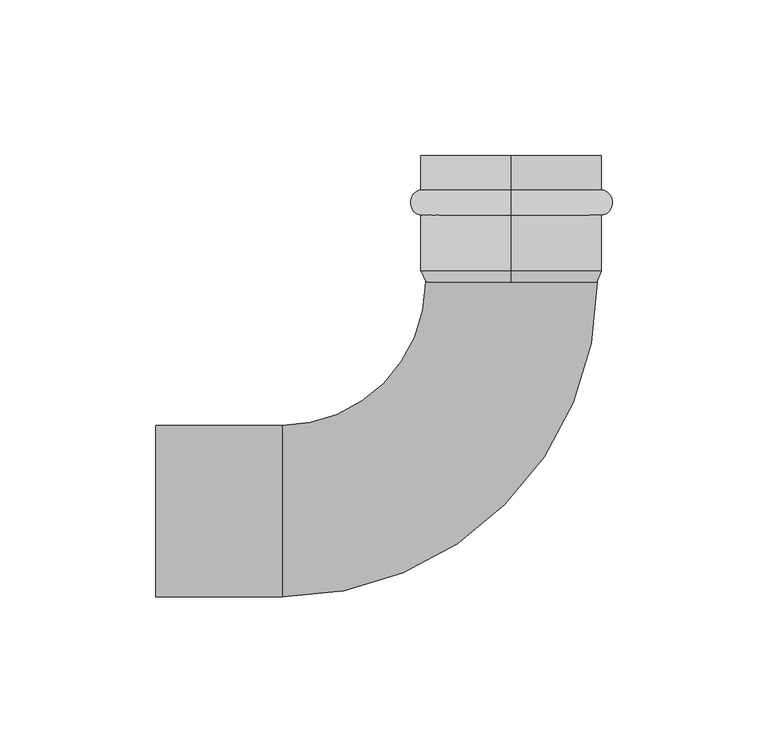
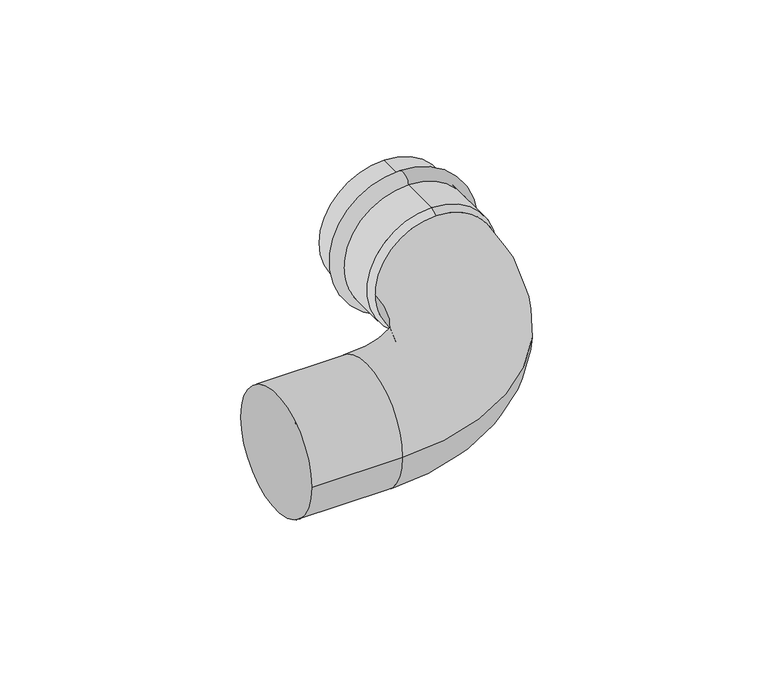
"""IFC4 building model written with IfcOpenShell, lengths in millimetres: pipe fitting geometry, РЕХАУ_Пресс Отвод-вставка : 54 x 90°."""

from ifc_helpers import new_model, si_unit, point, frame, origin, place, context, project, spatial, polyline, circle_curve, ellipse_curve, trimmed, source, transform, mapped, element, save
from ifc_brep_helpers import plane_surface, cylinder_surface, revolved_surface, advanced_brep


def pipe_fitting_194db4ae(model_context):
    return source(origin(), model_context, "Body", "AdvancedBrep", [
        advanced_brep(
        [(114.0, 103.0, 29.0), (114.0, 103.0, -29.0), (114.0, 95.0, -29.0), (114.0, 95.0, 29.0)],
        [
            (0, 1, circle_curve(frame((114.0, 103.0, 0.0), z_axis=(0.0, 1.0, 0.0), x_axis=(0.0, 0.0, -1.0)), 29.0)),
            (1, 2),
            (2, 3, circle_curve(frame((114.0, 95.0, 0.0), z_axis=(0.0, -1.0, 0.0), x_axis=(0.0, 0.0, -1.0)), 29.0)),
            (3, 0),
            (1, 0, circle_curve(frame((114.0, 103.0, 0.0), z_axis=(0.0, 1.0, 0.0), x_axis=(0.0, 0.0, -1.0)), 29.0)),
            (3, 2, circle_curve(frame((114.0, 95.0, 0.0), z_axis=(0.0, -1.0, 0.0), x_axis=(0.0, 0.0, -1.0)), 29.0)),
            (2, 1, ellipse_curve(frame((114.0, 99.0, -29.0), z_axis=(1.0, 0.0, 0.0), x_axis=(0.0, 1.0, 0.0)), 4.0, 3.5)),
            (0, 3, ellipse_curve(frame((114.0, 99.0, 29.0), z_axis=(1.0, 0.0, 0.0), x_axis=(0.0, 1.0, 0.0)), 4.0, 3.5)),
        ],
        [
            revolved_surface(polyline([(114.0, 95.0, -29.0), (114.0, 103.0, -29.0)]), (114.0, 73.0, 0.0), (0.0, -1.0, 0.0)),
            revolved_surface(trimmed(ellipse_curve(frame((114.0, 99.0, -29.0), z_axis=(-1.0, 0.0, 0.0), x_axis=(0.0, 1.0, 0.0)), 4.0, 3.5), [point((114.0, 103.0, -29.0))], [point((114.0, 95.0, -29.0))], True, "CARTESIAN"), (114.0, 73.0, 0.0), (0.0, -1.0, 0.0)),
        ],
        [
            (0, [[1, 2, 3, 4]]),
            (0, [[5, -4, 6, -2]]),
            (1, [[-3, 7, -1, 8]]),
            (1, [[-6, -8, -5, -7]]),
        ],
    ),
        advanced_brep(
        [(114.0, 73.4662215, 27.5), (114.0, 73.4662215, -27.5), (114.0, 77.0, -29.0), (114.0, 77.0, 29.0), (114.0, 114.0, 27.5), (114.0, 114.0, -27.5), (114.0, 114.0, 29.0), (114.0, 114.0, -29.0)],
        [
            (0, 1, circle_curve(frame((114.0, 73.4662215, 0.0), z_axis=(0.0, 1.0, 0.0), x_axis=(0.0, 0.0, -1.0)), 27.5)),
            (1, 2),
            (2, 3, circle_curve(frame((114.0, 77.0, 0.0), z_axis=(0.0, -1.0, 0.0), x_axis=(0.0, 0.0, -1.0)), 29.0)),
            (3, 0),
            (1, 0, circle_curve(frame((114.0, 73.4662215, 0.0), z_axis=(0.0, 1.0, 0.0), x_axis=(0.0, 0.0, -1.0)), 27.5)),
            (3, 2, circle_curve(frame((114.0, 77.0, 0.0), z_axis=(0.0, -1.0, 0.0), x_axis=(0.0, 0.0, -1.0)), 29.0)),
            (4, 5, circle_curve(frame((114.0, 114.0, 0.0), z_axis=(0.0, 1.0, 0.0), x_axis=(0.0, 0.0, -1.0)), 27.5)),
            (5, 1),
            (0, 4),
            (5, 4, circle_curve(frame((114.0, 114.0, 0.0), z_axis=(0.0, 1.0, 0.0), x_axis=(0.0, 0.0, -1.0)), 27.5)),
            (6, 7, circle_curve(frame((114.0, 114.0, 0.0), z_axis=(0.0, 1.0, 0.0), x_axis=(0.0, 0.0, -1.0)), 29.0)),
            (7, 5),
            (4, 6),
            (7, 6, circle_curve(frame((114.0, 114.0, 0.0), z_axis=(0.0, 1.0, 0.0), x_axis=(0.0, 0.0, -1.0)), 29.0)),
            (2, 7),
            (6, 3),
        ],
        [
            revolved_surface(polyline([(114.0, 77.0, -29.0), (114.0, 73.4662215, -27.5)]), (114.0, 73.0, 0.0), (0.0, -1.0, 0.0)),
            revolved_surface(polyline([(114.0, 73.4662215, -27.5), (114.0, 114.0, -27.5)]), (114.0, 73.0, 0.0), (0.0, -1.0, 0.0)),
            plane_surface(frame((114.0, 114.0, 0.0), z_axis=(0.0, 1.0, 0.0), x_axis=(0.0, 0.0, -1.0))),
            cylinder_surface(frame((114.0, 73.0, 0.0), z_axis=(0.0, -1.0, 0.0), x_axis=(0.0, 0.0, -1.0)), 29.0),
        ],
        [
            (0, [[1, 2, 3, 4]]),
            (0, [[5, -4, 6, -2]]),
            (1, [[7, 8, -1, 9]]),
            (1, [[10, -9, -5, -8]]),
            (2, [[11, 12, -7, 13]]),
            (2, [[14, -13, -10, -12]]),
            (3, [[-3, 15, -11, 16]]),
            (3, [[-6, -16, -14, -15]]),
        ],
    ),
        advanced_brep(
        [(0.0, -27.5, 0.0), (0.0, 27.5, 0.0), (40.5337785, -27.5, 0.0), (40.5337785, 27.5, 0.0), (86.5, 73.4662215, 0.0), (141.5, 73.4662215, 0.0), (141.5, 77.0, 0.0), (86.5, 77.0, 0.0)],
        [
            (0, 1, circle_curve(frame((0.0, 0.0, 0.0), z_axis=(-1.0, 0.0, 0.0), x_axis=(0.0, 1.0, 0.0)), 27.5)),
            (1, 0, circle_curve(frame((0.0, 0.0, 0.0), z_axis=(-1.0, 0.0, 0.0), x_axis=(0.0, 1.0, 0.0)), 27.5)),
            (0, 2),
            (2, 3, circle_curve(frame((40.5337785, 0.0, 0.0), z_axis=(-1.0, 0.0, 0.0), x_axis=(0.0, 1.0, 0.0)), 27.5)),
            (3, 1),
            (3, 2, circle_curve(frame((40.5337785, 0.0, 0.0), z_axis=(-1.0, 0.0, 0.0), x_axis=(0.0, 1.0, 0.0)), 27.5)),
            (4, 3, circle_curve(frame((40.5337785, 73.4662215, 0.0), z_axis=(0.0, 0.0, -1.0), x_axis=(0.0, -1.0, 0.0)), 45.9662215)),
            (2, 5, circle_curve(frame((40.5337785, 73.4662215, 0.0), z_axis=(0.0, 0.0, 1.0), x_axis=(0.0, -1.0, 0.0)), 100.9662215)),
            (5, 4, circle_curve(frame((114.0, 73.4662215, 0.0), z_axis=(0.0, -1.0, 0.0), x_axis=(-1.0, 0.0, 0.0)), 27.5)),
            (4, 5, circle_curve(frame((114.0, 73.4662215, 0.0), z_axis=(0.0, -1.0, 0.0), x_axis=(-1.0, 0.0, 0.0)), 27.5)),
            (6, 7, circle_curve(frame((114.0, 77.0, 0.0), z_axis=(0.0, 1.0, 0.0), x_axis=(-1.0, 0.0, 0.0)), 27.5)),
            (7, 6, circle_curve(frame((114.0, 77.0, 0.0), z_axis=(0.0, 1.0, 0.0), x_axis=(-1.0, 0.0, 0.0)), 27.5)),
            (5, 6),
            (7, 4),
        ],
        [
            plane_surface(frame((0.0, 0.0, 0.0), z_axis=(-1.0, 0.0, 0.0), x_axis=(0.0, 0.0, 1.0))),
            cylinder_surface(frame((0.0, 0.0, 0.0), z_axis=(-1.0, 0.0, 0.0), x_axis=(0.0, 1.0, 0.0)), 27.5),
            revolved_surface(trimmed(ellipse_curve(frame((40.5337785, 0.0, 0.0), z_axis=(-1.0, 0.0, 0.0), x_axis=(0.0, 1.0, 0.0)), 27.5, 27.5), [point((40.5337785, -27.5, 0.0))], [point((40.5337785, 27.5, 0.0))], True, "CARTESIAN"), (40.5337785, 73.4662215, 0.0), (0.0, 0.0, 1.0)),
            revolved_surface(trimmed(ellipse_curve(frame((40.5337785, 0.0, 0.0), z_axis=(-1.0, 0.0, 0.0), x_axis=(0.0, 1.0, 0.0)), 27.5, 27.5), [point((40.5337785, 27.5, 0.0))], [point((40.5337785, -27.5, 0.0))], True, "CARTESIAN"), (40.5337785, 73.4662215, 0.0), (0.0, 0.0, 1.0)),
            plane_surface(frame((114.0, 77.0, 0.0), z_axis=(0.0, 1.0, 0.0), x_axis=(0.0, 0.0, 1.0))),
            cylinder_surface(frame((114.0, 73.4662215, 0.0), z_axis=(0.0, -1.0, 0.0), x_axis=(-1.0, 0.0, 0.0)), 27.5),
        ],
        [
            (0, [[1, 2]]),
            (1, [[-1, 3, 4, 5]]),
            (1, [[-2, -5, 6, -3]]),
            (2, [[7, -4, 8, 9]]),
            (3, [[-8, -6, -7, 10]]),
            (4, [[11, 12]]),
            (5, [[-9, 13, -12, 14]]),
            (5, [[-10, -14, -11, -13]]),
        ],
    ),
    ])


if __name__ == "__main__":
    model = new_model("IFC4")
    model_context = context("Model", 3, world=origin())
    ifc_project = project(units=[si_unit("LENGTHUNIT", "METRE", prefix="MILLI")], contexts=[model_context])
    site = spatial("IfcSite", under=ifc_project)
    building = spatial("IfcBuilding", under=site)
    placement = place(None, origin())
    pipe_fitting_shape = pipe_fitting_194db4ae(model_context)
    element("IfcPipeFitting", 1, ObjectType="РЕХАУ_Пресс Отвод-вставка : 54 x 90°", at=placement, inside=building, context=model_context, shape_type="MappedRepresentation", body=[
        mapped(pipe_fitting_shape, transform((0.0, 0.0, 0.0), x_axis=(1.0, 0.0, 0.0), y_axis=(0.0, 1.0, 0.0), z_axis=(0.0, 0.0, 1.0))),
    ])
    save(model, "model.ifc")
